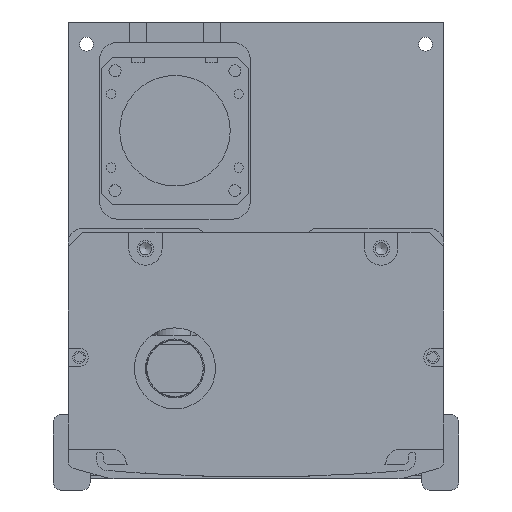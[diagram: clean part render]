
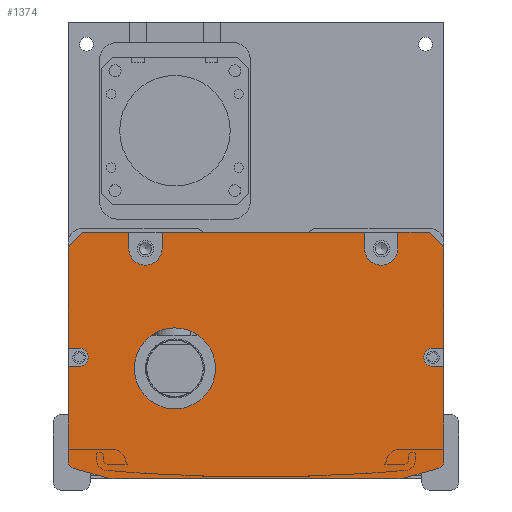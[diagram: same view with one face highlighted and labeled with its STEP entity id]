
A CAD part, front view. The second image highlights one B-rep face of the part: STEP entity #1374.
In plain terms, the highlighted planar face has unit normal (0, -1, 0).
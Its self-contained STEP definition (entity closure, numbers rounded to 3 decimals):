
#1374=ADVANCED_FACE('',(#4064,#4065),#2183,.F.);
#2183=PLANE('',#13348);
#2577=LINE('',#19130,#3339);
#2578=LINE('',#19133,#3340);
#2579=LINE('',#19135,#3341);
#2580=LINE('',#19137,#3342);
#2581=LINE('',#19141,#3343);
#2582=LINE('',#19143,#3344);
#2583=LINE('',#19145,#3345);
#2584=LINE('',#19149,#3346);
#2585=LINE('',#19151,#3347);
#2586=LINE('',#19153,#3348);
#2587=LINE('',#19155,#3349);
#2588=LINE('',#19157,#3350);
#2589=LINE('',#19161,#3351);
#2590=LINE('',#19163,#3352);
#2591=LINE('',#19167,#3353);
#2592=LINE('',#19171,#3354);
#2593=LINE('',#19175,#3355);
#2594=LINE('',#19179,#3356);
#2595=LINE('',#19181,#3357);
#2596=LINE('',#19185,#3358);
#3339=VECTOR('',#15147,1.);
#3340=VECTOR('',#15148,1.);
#3341=VECTOR('',#15149,1.);
#3342=VECTOR('',#15150,1.);
#3343=VECTOR('',#15153,1.);
#3344=VECTOR('',#15154,1.);
#3345=VECTOR('',#15155,1.);
#3346=VECTOR('',#15158,1.);
#3347=VECTOR('',#15159,1.);
#3348=VECTOR('',#15160,1.);
#3349=VECTOR('',#15161,1.);
#3350=VECTOR('',#15162,1.);
#3351=VECTOR('',#15165,1.);
#3352=VECTOR('',#15166,1.);
#3353=VECTOR('',#15169,1.);
#3354=VECTOR('',#15172,1.);
#3355=VECTOR('',#15175,1.);
#3356=VECTOR('',#15178,1.);
#3357=VECTOR('',#15179,1.);
#3358=VECTOR('',#15182,1.);
#4064=FACE_BOUND('',#4790,.T.);
#4065=FACE_BOUND('',#4791,.T.);
#4790=EDGE_LOOP('',(#6129,#6130,#6131,#6132,#6133,#6134,#6135,#6136,#6137,
#6138,#6139,#6140,#6141,#6142,#6143,#6144,#6145,#6146,#6147,#6148,#6149,
#6150,#6151,#6152,#6153,#6154,#6155,#6156));
#4791=EDGE_LOOP('',(#6157));
#6129=ORIENTED_EDGE('',*,*,#10895,.T.);
#6130=ORIENTED_EDGE('',*,*,#10896,.T.);
#6131=ORIENTED_EDGE('',*,*,#10897,.T.);
#6132=ORIENTED_EDGE('',*,*,#10898,.F.);
#6133=ORIENTED_EDGE('',*,*,#10899,.T.);
#6134=ORIENTED_EDGE('',*,*,#10900,.F.);
#6135=ORIENTED_EDGE('',*,*,#10901,.T.);
#6136=ORIENTED_EDGE('',*,*,#10902,.F.);
#6137=ORIENTED_EDGE('',*,*,#10903,.T.);
#6138=ORIENTED_EDGE('',*,*,#10904,.F.);
#6139=ORIENTED_EDGE('',*,*,#10905,.T.);
#6140=ORIENTED_EDGE('',*,*,#10906,.T.);
#6141=ORIENTED_EDGE('',*,*,#10907,.T.);
#6142=ORIENTED_EDGE('',*,*,#10908,.T.);
#6143=ORIENTED_EDGE('',*,*,#10909,.T.);
#6144=ORIENTED_EDGE('',*,*,#10910,.T.);
#6145=ORIENTED_EDGE('',*,*,#10911,.T.);
#6146=ORIENTED_EDGE('',*,*,#10912,.T.);
#6147=ORIENTED_EDGE('',*,*,#10913,.T.);
#6148=ORIENTED_EDGE('',*,*,#10914,.T.);
#6149=ORIENTED_EDGE('',*,*,#10915,.T.);
#6150=ORIENTED_EDGE('',*,*,#10916,.T.);
#6151=ORIENTED_EDGE('',*,*,#10917,.T.);
#6152=ORIENTED_EDGE('',*,*,#10918,.T.);
#6153=ORIENTED_EDGE('',*,*,#10919,.T.);
#6154=ORIENTED_EDGE('',*,*,#10920,.T.);
#6155=ORIENTED_EDGE('',*,*,#10921,.T.);
#6156=ORIENTED_EDGE('',*,*,#10922,.T.);
#6157=ORIENTED_EDGE('',*,*,#10923,.T.);
#9620=VERTEX_POINT('',#19131);
#9621=VERTEX_POINT('',#19132);
#9622=VERTEX_POINT('',#19134);
#9623=VERTEX_POINT('',#19136);
#9624=VERTEX_POINT('',#19138);
#9625=VERTEX_POINT('',#19140);
#9626=VERTEX_POINT('',#19142);
#9627=VERTEX_POINT('',#19144);
#9628=VERTEX_POINT('',#19146);
#9629=VERTEX_POINT('',#19148);
#9630=VERTEX_POINT('',#19150);
#9631=VERTEX_POINT('',#19152);
#9632=VERTEX_POINT('',#19154);
#9633=VERTEX_POINT('',#19156);
#9634=VERTEX_POINT('',#19158);
#9635=VERTEX_POINT('',#19160);
#9636=VERTEX_POINT('',#19162);
#9637=VERTEX_POINT('',#19164);
#9638=VERTEX_POINT('',#19166);
#9639=VERTEX_POINT('',#19168);
#9640=VERTEX_POINT('',#19170);
#9641=VERTEX_POINT('',#19172);
#9642=VERTEX_POINT('',#19174);
#9643=VERTEX_POINT('',#19176);
#9644=VERTEX_POINT('',#19178);
#9645=VERTEX_POINT('',#19180);
#9646=VERTEX_POINT('',#19182);
#9647=VERTEX_POINT('',#19184);
#9648=VERTEX_POINT('',#19187);
#10895=EDGE_CURVE('',#9620,#9621,#2577,.T.);
#10896=EDGE_CURVE('',#9621,#9622,#2578,.T.);
#10897=EDGE_CURVE('',#9622,#9623,#2579,.T.);
#10898=EDGE_CURVE('',#9624,#9623,#2580,.T.);
#10899=EDGE_CURVE('',#9624,#9625,#12546,.T.);
#10900=EDGE_CURVE('',#9626,#9625,#2581,.T.);
#10901=EDGE_CURVE('',#9626,#9627,#2582,.T.);
#10902=EDGE_CURVE('',#9628,#9627,#2583,.T.);
#10903=EDGE_CURVE('',#9628,#9629,#12547,.T.);
#10904=EDGE_CURVE('',#9630,#9629,#2584,.T.);
#10905=EDGE_CURVE('',#9630,#9631,#2585,.T.);
#10906=EDGE_CURVE('',#9631,#9632,#2586,.T.);
#10907=EDGE_CURVE('',#9632,#9633,#2587,.T.);
#10908=EDGE_CURVE('',#9633,#9634,#2588,.T.);
#10909=EDGE_CURVE('',#9634,#9635,#12548,.T.);
#10910=EDGE_CURVE('',#9635,#9636,#2589,.T.);
#10911=EDGE_CURVE('',#9636,#9637,#2590,.T.);
#10912=EDGE_CURVE('',#9637,#9638,#12549,.T.);
#10913=EDGE_CURVE('',#9638,#9639,#2591,.T.);
#10914=EDGE_CURVE('',#9639,#9640,#12550,.T.);
#10915=EDGE_CURVE('',#9640,#9641,#2592,.T.);
#10916=EDGE_CURVE('',#9641,#9642,#12551,.T.);
#10917=EDGE_CURVE('',#9642,#9643,#2593,.T.);
#10918=EDGE_CURVE('',#9643,#9644,#12552,.T.);
#10919=EDGE_CURVE('',#9644,#9645,#2594,.T.);
#10920=EDGE_CURVE('',#9645,#9646,#2595,.T.);
#10921=EDGE_CURVE('',#9646,#9647,#12553,.T.);
#10922=EDGE_CURVE('',#9647,#9620,#2596,.T.);
#10923=EDGE_CURVE('',#9648,#9648,#12554,.T.);
#12546=CIRCLE('',#13339,4.5);
#12547=CIRCLE('',#13340,4.5);
#12548=CIRCLE('',#13341,2.5);
#12549=CIRCLE('',#13342,2.);
#12550=CIRCLE('',#13343,10.);
#12551=CIRCLE('',#13344,10.);
#12552=CIRCLE('',#13345,2.);
#12553=CIRCLE('',#13346,2.5);
#12554=CIRCLE('',#13347,11.);
#13339=AXIS2_PLACEMENT_3D('',#19139,#15151,#15152);
#13340=AXIS2_PLACEMENT_3D('',#19147,#15156,#15157);
#13341=AXIS2_PLACEMENT_3D('',#19159,#15163,#15164);
#13342=AXIS2_PLACEMENT_3D('',#19165,#15167,#15168);
#13343=AXIS2_PLACEMENT_3D('',#19169,#15170,#15171);
#13344=AXIS2_PLACEMENT_3D('',#19173,#15173,#15174);
#13345=AXIS2_PLACEMENT_3D('',#19177,#15176,#15177);
#13346=AXIS2_PLACEMENT_3D('',#19183,#15180,#15181);
#13347=AXIS2_PLACEMENT_3D('',#19186,#15183,#15184);
#13348=AXIS2_PLACEMENT_3D('',#19188,#15185,#15186);
#15147=DIRECTION('',(0.,0.,1.));
#15148=DIRECTION('',(-0.707,0.,0.707));
#15149=DIRECTION('',(-1.,0.,0.));
#15150=DIRECTION('',(0.,0.,1.));
#15151=DIRECTION('',(0.,1.,0.));
#15152=DIRECTION('',(0.,0.,1.));
#15153=DIRECTION('',(0.,0.,-1.));
#15154=DIRECTION('',(-1.,0.,0.));
#15155=DIRECTION('',(0.,0.,1.));
#15156=DIRECTION('',(0.,1.,0.));
#15157=DIRECTION('',(0.,0.,1.));
#15158=DIRECTION('',(0.,0.,-1.));
#15159=DIRECTION('',(-1.,0.,0.));
#15160=DIRECTION('',(-0.707,0.,-0.707));
#15161=DIRECTION('',(0.,0.,-1.));
#15162=DIRECTION('',(1.,0.,0.));
#15163=DIRECTION('',(0.,1.,0.));
#15164=DIRECTION('',(0.,0.,1.));
#15165=DIRECTION('',(-1.,0.,0.));
#15166=DIRECTION('',(0.,0.,-1.));
#15167=DIRECTION('',(0.,-1.,0.));
#15168=DIRECTION('',(0.,0.,1.));
#15169=DIRECTION('',(0.963,0.,-0.269));
#15170=DIRECTION('',(0.,-1.,0.));
#15171=DIRECTION('',(0.,0.,1.));
#15172=DIRECTION('',(1.,0.,0.));
#15173=DIRECTION('',(0.,-1.,0.));
#15174=DIRECTION('',(0.,0.,-1.));
#15175=DIRECTION('',(0.963,0.,0.269));
#15176=DIRECTION('',(0.,-1.,0.));
#15177=DIRECTION('',(0.,0.,-1.));
#15178=DIRECTION('',(0.,0.,1.));
#15179=DIRECTION('',(-1.,0.,0.));
#15180=DIRECTION('',(0.,1.,0.));
#15181=DIRECTION('',(0.,0.,1.));
#15182=DIRECTION('',(1.,0.,0.));
#15183=DIRECTION('',(0.,1.,0.));
#15184=DIRECTION('',(0.,0.,1.));
#15185=DIRECTION('',(0.,1.,0.));
#15186=DIRECTION('',(-1.,0.,0.));
#19130=CARTESIAN_POINT('',(47.808,-767.5,-1.));
#19131=CARTESIAN_POINT('',(47.808,-767.5,-32.5));
#19132=CARTESIAN_POINT('',(47.808,-767.5,-5.));
#19133=CARTESIAN_POINT('',(43.808,-767.5,-1.));
#19134=CARTESIAN_POINT('',(43.808,-767.5,-1.));
#19135=CARTESIAN_POINT('',(-3.192,-767.5,-1.));
#19136=CARTESIAN_POINT('',(35.308,-767.5,-1.));
#19137=CARTESIAN_POINT('',(35.308,-767.5,-1.));
#19138=CARTESIAN_POINT('',(35.308,-767.5,-5.5));
#19139=CARTESIAN_POINT('',(30.808,-767.5,-5.5));
#19140=CARTESIAN_POINT('',(26.308,-767.5,-5.5));
#19141=CARTESIAN_POINT('',(26.308,-767.5,-1.));
#19142=CARTESIAN_POINT('',(26.308,-767.5,-1.));
#19143=CARTESIAN_POINT('',(-54.192,-767.5,-1.));
#19144=CARTESIAN_POINT('',(-28.692,-767.5,-1.));
#19145=CARTESIAN_POINT('',(-28.692,-767.5,-3.5));
#19146=CARTESIAN_POINT('',(-28.692,-767.5,-5.5));
#19147=CARTESIAN_POINT('',(-33.192,-767.5,-5.5));
#19148=CARTESIAN_POINT('',(-37.692,-767.5,-5.5));
#19149=CARTESIAN_POINT('',(-37.692,-767.5,-1.));
#19150=CARTESIAN_POINT('',(-37.692,-767.5,-1.));
#19151=CARTESIAN_POINT('',(-54.192,-767.5,-1.));
#19152=CARTESIAN_POINT('',(-50.192,-767.5,-1.));
#19153=CARTESIAN_POINT('',(-54.192,-767.5,-5.));
#19154=CARTESIAN_POINT('',(-54.192,-767.5,-5.));
#19155=CARTESIAN_POINT('',(-54.192,-767.5,-62.));
#19156=CARTESIAN_POINT('',(-54.192,-767.5,-32.5));
#19157=CARTESIAN_POINT('',(-3.192,-767.5,-32.5));
#19158=CARTESIAN_POINT('',(-51.192,-767.5,-32.5));
#19159=CARTESIAN_POINT('',(-51.192,-767.5,-35.));
#19160=CARTESIAN_POINT('',(-51.192,-767.5,-37.5));
#19161=CARTESIAN_POINT('',(-3.192,-767.5,-37.5));
#19162=CARTESIAN_POINT('',(-54.192,-767.5,-37.5));
#19163=CARTESIAN_POINT('',(-54.192,-767.5,-62.));
#19164=CARTESIAN_POINT('',(-54.192,-767.5,-63.212));
#19165=CARTESIAN_POINT('',(-52.192,-767.5,-63.212));
#19166=CARTESIAN_POINT('',(-52.731,-767.5,-65.138));
#19167=CARTESIAN_POINT('',(-55.807,-767.5,-64.279));
#19168=CARTESIAN_POINT('',(-43.809,-767.5,-67.631));
#19169=CARTESIAN_POINT('',(-41.118,-767.5,-58.));
#19170=CARTESIAN_POINT('',(-41.118,-767.5,-68.));
#19171=CARTESIAN_POINT('',(-54.692,-767.5,-68.));
#19172=CARTESIAN_POINT('',(34.733,-767.5,-68.));
#19173=CARTESIAN_POINT('',(34.733,-767.5,-58.));
#19174=CARTESIAN_POINT('',(37.424,-767.5,-67.631));
#19175=CARTESIAN_POINT('',(49.422,-767.5,-64.279));
#19176=CARTESIAN_POINT('',(46.346,-767.5,-65.138));
#19177=CARTESIAN_POINT('',(45.808,-767.5,-63.212));
#19178=CARTESIAN_POINT('',(47.808,-767.5,-63.212));
#19179=CARTESIAN_POINT('',(47.808,-767.5,-1.));
#19180=CARTESIAN_POINT('',(47.808,-767.5,-37.5));
#19181=CARTESIAN_POINT('',(-3.192,-767.5,-37.5));
#19182=CARTESIAN_POINT('',(44.808,-767.5,-37.5));
#19183=CARTESIAN_POINT('',(44.808,-767.5,-35.));
#19184=CARTESIAN_POINT('',(44.808,-767.5,-32.5));
#19185=CARTESIAN_POINT('',(-3.192,-767.5,-32.5));
#19186=CARTESIAN_POINT('',(-25.192,-767.5,-38.));
#19187=CARTESIAN_POINT('',(-25.192,-767.5,-27.));
#19188=CARTESIAN_POINT('',(-3.192,-767.5,-1.));
